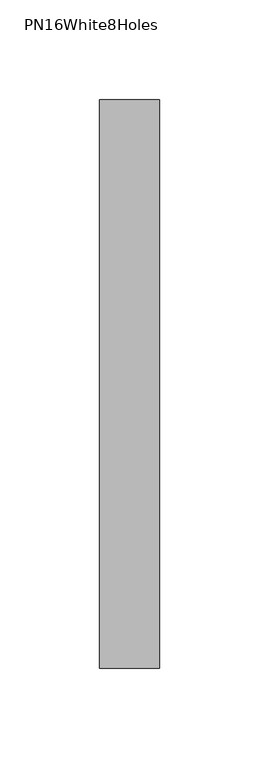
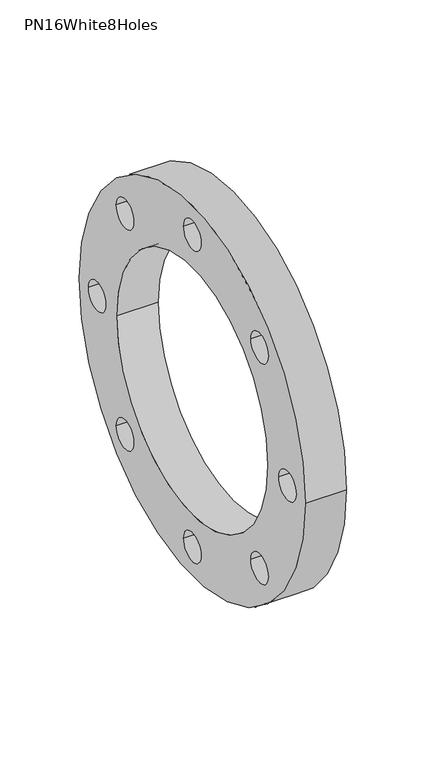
"""IFC4 building model written with IfcOpenShell, lengths in millimetres: pipe fitting geometry, PipeAccessory_GirpiHTA_CPVC_BackingRingsPN16White8HolesFlangeAndGasket : PN16White8Holes."""

import ifcopenshell
import ifcopenshell.guid

model = None  # the IFC model being written
_history = None  # IfcOwnerHistory: only IFC2X3 demands one
_inside = {}  # id of a spatial element -> (the spatial element, [elements in it])
_under = {}  # id of a project, library or spatial element -> (it, [spatial elements below it])
_declared = {}  # id of a project -> (the project, [libraries it declares])
_typed = {}  # id of a type object -> (the type object, [elements of that type])
_made_of = {}  # id of a material, layer set ... -> (it, [elements and type objects made of it])


def new_model(schema):
    """Start an empty IFC model of exactly this schema.

    Asked for "IFC4X3", IfcOpenShell would pick the latest addendum, in which some entities
    have other attributes; the version numbers below select the first issue.
    IFC2X3 requires an IfcOwnerHistory on every rooted entity: one is made here for all.
    """
    global model, _history
    if schema == "IFC4X3":
        model = ifcopenshell.file(schema_version=(4, 3, 0, 0))
    else:
        model = ifcopenshell.file(schema=schema)
    _inside.clear()
    _under.clear()
    _declared.clear()
    _typed.clear()
    _made_of.clear()
    _history = None
    if model.schema == "IFC2X3":
        org = make("IfcOrganization", Name="unknown")
        user = make(
            "IfcPersonAndOrganization",
            ThePerson=make("IfcPerson", FamilyName="unknown"),
            TheOrganization=org,
        )
        app = make(
            "IfcApplication",
            ApplicationDeveloper=org,
            Version="unknown",
            ApplicationFullName="unknown",
            ApplicationIdentifier="unknown",
        )
        _history = make(
            "IfcOwnerHistory",
            OwningUser=user,
            OwningApplication=app,
            ChangeAction="ADDED",
            CreationDate=0,
        )
    return model


def make(cls, **values):
    """One entity of the class cls with the attributes given. An attribute that is None is left unset."""
    return model.create_entity(
        cls, **{name: value for name, value in values.items() if value is not None}
    )


def rooted(cls, **values):
    """An entity with a GlobalId (a new one), such as an element, a storey or a relation."""
    return make(cls, GlobalId=ifcopenshell.guid.new(), OwnerHistory=_history, **values)


def si_unit(unit_type, name, prefix=None):
    """IfcSIUnit, for example si_unit("LENGTHUNIT", "METRE", prefix="MILLI")."""
    return make("IfcSIUnit", UnitType=unit_type, Prefix=prefix, Name=name)


def assignment(units):
    """IfcUnitAssignment: the units of a project."""
    return None if units is None else make("IfcUnitAssignment", Units=units)


def point(xyz):
    """IfcCartesianPoint."""
    return None if xyz is None else make("IfcCartesianPoint", Coordinates=xyz)


def direction(xyz):
    """IfcDirection."""
    return None if xyz is None else make("IfcDirection", DirectionRatios=xyz)


def frame(location, z_axis=None, x_axis=None):
    """IfcAxis2Placement3D, a coordinate frame: its origin and axes. An axis left out is left unset."""
    return make(
        "IfcAxis2Placement3D",
        Location=point(location),
        Axis=direction(z_axis),
        RefDirection=direction(x_axis),
    )


def frame_2d(location, x_axis=None):
    """IfcAxis2Placement2D, a coordinate frame in the plane: its origin and x axis."""
    return make(
        "IfcAxis2Placement2D", Location=point(location), RefDirection=direction(x_axis)
    )


def origin():
    """The frame at (0, 0, 0) with its axes left unset."""
    return frame((0.0, 0.0, 0.0))


def origin_2d():
    """The frame at (0, 0) in the plane with its x axis left unset."""
    return frame_2d((0.0, 0.0))


def place(relative_to, where):
    """IfcLocalPlacement: puts the frame where relative to a parent placement (None: the world)."""
    return make(
        "IfcLocalPlacement", PlacementRelTo=relative_to, RelativePlacement=where
    )


def context(
    kind, dimensions, precision=None, world=None, true_north=None, identifier=None
):
    """IfcGeometricRepresentationContext, for example the 3D "Model" context."""
    return make(
        "IfcGeometricRepresentationContext",
        ContextIdentifier=identifier,
        ContextType=kind,
        CoordinateSpaceDimension=dimensions,
        Precision=precision,
        WorldCoordinateSystem=world,
        TrueNorth=true_north,
    )


def project(units=None, contexts=None):
    """IfcProject with its units and contexts."""
    return rooted(
        "IfcProject",
        Name="project",
        RepresentationContexts=contexts,
        UnitsInContext=assignment(units),
    )


def spatial(cls, under=None, at=None, **own):
    """A site, building, storey or space (cls), placed at a placement, below another one or the project."""
    s = rooted(cls, ObjectPlacement=at, **own)
    if under is not None:
        _under.setdefault(under.id(), (under, []))[1].append(s)
    return s


def circle_curve(where, radius):
    """IfcCircle in the frame where."""
    return make("IfcCircle", Position=where, Radius=radius)


def trimmed(basis, trim1, trim2, sense, master):
    """IfcTrimmedCurve: the piece of a basis curve between two trims."""
    return make(
        "IfcTrimmedCurve",
        BasisCurve=basis,
        Trim1=trim1,
        Trim2=trim2,
        SenseAgreement=sense,
        MasterRepresentation=master,
    )


def segment(curve, same_sense, transition):
    """IfcCompositeCurveSegment."""
    return make(
        "IfcCompositeCurveSegment",
        Transition=transition,
        SameSense=same_sense,
        ParentCurve=curve,
    )


def composite_curve(segments, self_intersect=None):
    """IfcCompositeCurve: segments joined end to end."""
    return make("IfcCompositeCurve", Segments=segments, SelfIntersect=self_intersect)


def outline(outer, holes=None, kind="AREA"):
    """IfcArbitraryClosedProfileDef: a profile drawn as a closed curve; with holes, ...WithVoids."""
    if holes is None:
        return make("IfcArbitraryClosedProfileDef", ProfileType=kind, OuterCurve=outer)
    return make(
        "IfcArbitraryProfileDefWithVoids",
        ProfileType=kind,
        OuterCurve=outer,
        InnerCurves=holes,
    )


def extrude(swept, where, along, depth):
    """IfcExtrudedAreaSolid: the profile swept, set in the frame where, extruded along a direction by depth."""
    return make(
        "IfcExtrudedAreaSolid",
        SweptArea=swept,
        Position=where,
        ExtrudedDirection=direction(along),
        Depth=depth,
    )


def shape(context_of_items, identifier, shape_type, items):
    """IfcShapeRepresentation: the items that make up one representation, for example the "Body"."""
    return make(
        "IfcShapeRepresentation",
        ContextOfItems=context_of_items,
        RepresentationIdentifier=identifier,
        RepresentationType=shape_type,
        Items=items,
    )


def source(mapping_origin, context_of_items, identifier, shape_type, items):
    """IfcRepresentationMap: a shape defined once, which mapped items show again and again."""
    return make(
        "IfcRepresentationMap",
        MappingOrigin=mapping_origin,
        MappedRepresentation=shape(context_of_items, identifier, shape_type, items),
    )


def transform(
    local_origin,
    x_axis=None,
    y_axis=None,
    z_axis=None,
    scale=None,
    scale2=None,
    scale3=None,
    uniform=True,
):
    """IfcCartesianTransformationOperator3D, or its non-uniform kind. x_axis, y_axis, z_axis: its Axis1, 2, 3."""
    if uniform:
        return make(
            "IfcCartesianTransformationOperator3D",
            Axis1=direction(x_axis),
            Axis2=direction(y_axis),
            LocalOrigin=point(local_origin),
            Scale=scale,
            Axis3=direction(z_axis),
        )
    return make(
        "IfcCartesianTransformationOperator3DnonUniform",
        Axis1=direction(x_axis),
        Axis2=direction(y_axis),
        LocalOrigin=point(local_origin),
        Scale=scale,
        Axis3=direction(z_axis),
        Scale2=scale2,
        Scale3=scale3,
    )


def mapped(mapping_source, mapping_target):
    """IfcMappedItem: shows the shape of a source again, moved by a transform."""
    return make(
        "IfcMappedItem", MappingSource=mapping_source, MappingTarget=mapping_target
    )


def made_of(thing, what):
    """Note that an element or type object is made of a material, layer set ...; save() writes the relation."""
    if what is not None:
        _made_of.setdefault(what.id(), (what, []))[1].append(thing)
    return thing


def element(
    cls,
    number,
    at=None,
    inside=None,
    cuts=None,
    type_object=None,
    material=None,
    context=None,
    identifier="Body",
    shape_type=None,
    held_by="IfcProductDefinitionShape",
    body=None,
    shapes=None,
    **own,
):
    """One element of the class cls, such as IfcWall. Its Tag is "e" and its number.

    at: its placement. inside: the storey or other place that contains it. cuts: it is an
    opening in that element (IfcRelVoidsElement). A single representation is given by context,
    identifier, shape_type and body (its items); several are given by shapes. held_by: the class
    of the entity that holds the representations. save() writes the other relations.
    """
    e = rooted(cls, Tag="e%d" % number, ObjectPlacement=at, **own)
    if body is not None:
        shapes = [shape(context, identifier, shape_type, body)]
    if shapes is not None:
        e.Representation = make(held_by, Representations=shapes)
    if inside is not None:
        _inside.setdefault(inside.id(), (inside, []))[1].append(e)
    if cuts is not None:
        rooted(
            "IfcRelVoidsElement", RelatingBuildingElement=cuts, RelatedOpeningElement=e
        )
    if type_object is not None:
        _typed.setdefault(type_object.id(), (type_object, []))[1].append(e)
    return made_of(e, material)


def aggregate(whole, parts):
    """IfcRelAggregates: a whole, such as a stair, and the parts it consists of."""
    return rooted("IfcRelAggregates", RelatingObject=whole, RelatedObjects=parts)


def save(model, path):
    """Write the relations noted so far, then the file.

    IfcRelAggregates (storeys below a building ...), IfcRelContainedInSpatialStructure (elements
    in a storey), IfcRelDefinesByType, IfcRelAssociatesMaterial and IfcRelDeclares: one each for
    every whole, place, type object, material and project.
    """
    for whole, parts in _under.values():
        aggregate(whole, parts)
    for where, things in _inside.values():
        rooted(
            "IfcRelContainedInSpatialStructure",
            RelatedElements=things,
            RelatingStructure=where,
        )
    for kind, things in _typed.values():
        rooted("IfcRelDefinesByType", RelatedObjects=things, RelatingType=kind)
    for what, things in _made_of.values():
        rooted("IfcRelAssociatesMaterial", RelatedObjects=things, RelatingMaterial=what)
    for by, libraries in _declared.values():
        rooted("IfcRelDeclares", RelatingContext=by, RelatedDefinitions=libraries)
    model.write(path)


def pn16white8holes_36106536(model_context):
    return source(origin(), model_context, "Body", "SweptSolid", [
        extrude(outline(composite_curve([segment(trimmed(circle_curve(origin_2d(), 142.5), [point((-142.5, 0.0))], [point((142.5, 0.0))], False, "CARTESIAN"), True, "CONTINUOUS"), segment(trimmed(circle_curve(origin_2d(), 142.5), [point((142.5, 0.0))], [point((-142.5, 0.0))], False, "CARTESIAN"), True, "CONTINUOUS")], self_intersect=False), holes=[composite_curve([segment(trimmed(circle_curve(origin_2d(), 95.0), [point((-95.0, 0.0))], [point((95.0, 0.0))], True, "CARTESIAN"), True, "CONTINUOUS"), segment(trimmed(circle_curve(origin_2d(), 95.0), [point((95.0, 0.0))], [point((-95.0, 0.0))], True, "CARTESIAN"), True, "CONTINUOUS")], self_intersect=False), composite_curve([segment(trimmed(circle_curve(frame_2d((0.0, 120.0)), 11.0), [point((-11.0, 120.0))], [point((11.0, 120.0))], True, "CARTESIAN"), True, "CONTINUOUS"), segment(trimmed(circle_curve(frame_2d((0.0, 120.0)), 11.0), [point((11.0, 120.0))], [point((-11.0, 120.0))], True, "CARTESIAN"), True, "CONTINUOUS")], self_intersect=False), composite_curve([segment(trimmed(circle_curve(frame_2d((120.0, 0.0)), 11.0), [point((109.0, 0.0))], [point((131.0, 0.0))], True, "CARTESIAN"), True, "CONTINUOUS"), segment(trimmed(circle_curve(frame_2d((120.0, 0.0)), 11.0), [point((131.0, 0.0))], [point((109.0, 0.0))], True, "CARTESIAN"), True, "CONTINUOUS")], self_intersect=False), composite_curve([segment(trimmed(circle_curve(frame_2d((0.0, -120.0)), 11.0), [point((-11.0, -120.0))], [point((11.0, -120.0))], True, "CARTESIAN"), True, "CONTINUOUS"), segment(trimmed(circle_curve(frame_2d((0.0, -120.0)), 11.0), [point((11.0, -120.0))], [point((-11.0, -120.0))], True, "CARTESIAN"), True, "CONTINUOUS")], self_intersect=False), composite_curve([segment(trimmed(circle_curve(frame_2d((-120.0, 0.0)), 11.0), [point((-131.0, 0.0))], [point((-109.0, 0.0))], True, "CARTESIAN"), True, "CONTINUOUS"), segment(trimmed(circle_curve(frame_2d((-120.0, 0.0)), 11.0), [point((-109.0, 0.0))], [point((-131.0, 0.0))], True, "CARTESIAN"), True, "CONTINUOUS")], self_intersect=False), composite_curve([segment(trimmed(circle_curve(frame_2d((84.8528137, 84.8528137)), 11.0), [point((73.8528137, 84.8528137))], [point((95.8528137, 84.8528137))], True, "CARTESIAN"), True, "CONTINUOUS"), segment(trimmed(circle_curve(frame_2d((84.8528137, 84.8528137)), 11.0), [point((95.8528137, 84.8528137))], [point((73.8528137, 84.8528137))], True, "CARTESIAN"), True, "CONTINUOUS")], self_intersect=False), composite_curve([segment(trimmed(circle_curve(frame_2d((-84.8528137, 84.8528137)), 11.0), [point((-95.8528137, 84.8528137))], [point((-73.8528137, 84.8528137))], True, "CARTESIAN"), True, "CONTINUOUS"), segment(trimmed(circle_curve(frame_2d((-84.8528137, 84.8528137)), 11.0), [point((-73.8528137, 84.8528137))], [point((-95.8528137, 84.8528137))], True, "CARTESIAN"), True, "CONTINUOUS")], self_intersect=False), composite_curve([segment(trimmed(circle_curve(frame_2d((-84.8528137, -84.8528137)), 11.0), [point((-95.8528137, -84.8528137))], [point((-73.8528137, -84.8528137))], True, "CARTESIAN"), True, "CONTINUOUS"), segment(trimmed(circle_curve(frame_2d((-84.8528137, -84.8528137)), 11.0), [point((-73.8528137, -84.8528137))], [point((-95.8528137, -84.8528137))], True, "CARTESIAN"), True, "CONTINUOUS")], self_intersect=False), composite_curve([segment(trimmed(circle_curve(frame_2d((84.8528137, -84.8528137)), 11.0), [point((73.8528137, -84.8528137))], [point((95.8528137, -84.8528137))], True, "CARTESIAN"), True, "CONTINUOUS"), segment(trimmed(circle_curve(frame_2d((84.8528137, -84.8528137)), 11.0), [point((95.8528137, -84.8528137))], [point((73.8528137, -84.8528137))], True, "CARTESIAN"), True, "CONTINUOUS")], self_intersect=False)]), frame((-15.0, 0.0, 0.0), z_axis=(1.0, 0.0, 0.0), x_axis=(0.0, 1.0, 0.0)), (0.0, 0.0, 1.0), 30.0),
    ])


if __name__ == "__main__":
    model = new_model("IFC4")
    model_context = context("Model", 3, world=origin())
    ifc_project = project(units=[si_unit("LENGTHUNIT", "METRE", prefix="MILLI")], contexts=[model_context])
    site = spatial("IfcSite", under=ifc_project)
    building = spatial("IfcBuilding", under=site)
    placement = place(None, origin())
    pn16white8holes_shape = pn16white8holes_36106536(model_context)
    element("IfcPipeFitting", 1, ObjectType="PipeAccessory_GirpiHTA_CPVC_BackingRingsPN16White8HolesFlangeAndGasket : PN16White8Holes", at=placement, inside=building, context=model_context, shape_type="MappedRepresentation", body=[
        mapped(pn16white8holes_shape, transform((0.0, 0.0, 0.0), x_axis=(1.0, 0.0, 0.0), y_axis=(0.0, 1.0, 0.0), z_axis=(0.0, 0.0, 1.0))),
    ])
    save(model, "model.ifc")
